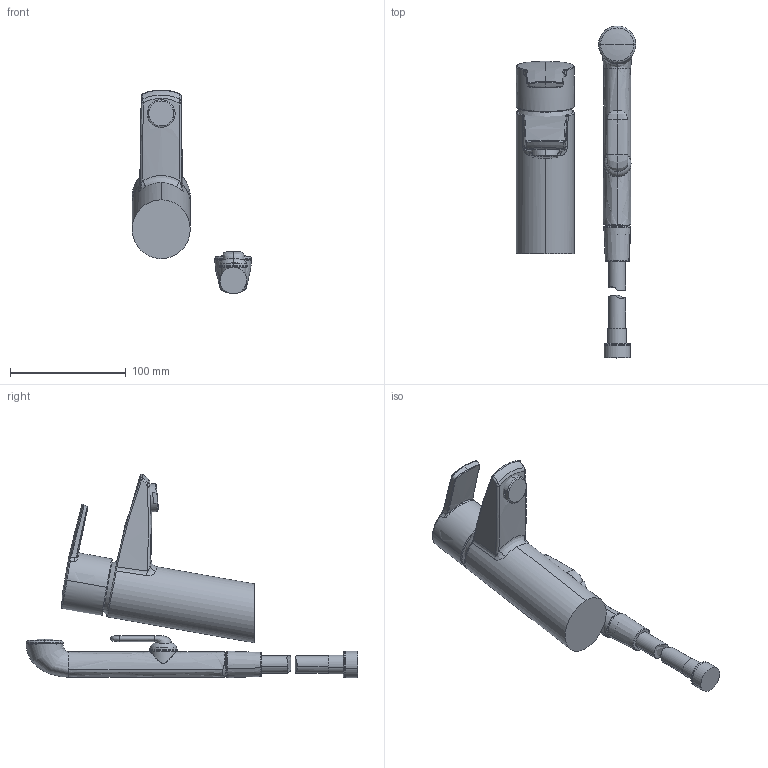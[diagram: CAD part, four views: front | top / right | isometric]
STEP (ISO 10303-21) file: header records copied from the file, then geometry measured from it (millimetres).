
FILE_DESCRIPTION (( 'STEP AP203' ), '1' );
FILE_NAME ('2808+2808F+2812+2812F.STEP', '2018-07-10T09:22:10', ( '' ), ( '' ), 'SwSTEP 2.0', 'SolidWorks 2016', '' );
FILE_SCHEMA (( 'CONFIG_CONTROL_DESIGN' ));
Length unit declared in the file: millimetre
Products named in the file (1): 2808+2808F+2812+2812F
Bounding box: 103.18 x 286.42 x 175.88 mm (x, y, z)
Volume: 523272.8 mm3; surface area: 76950 mm2
Topology: 9 solids, 9 shells, 158 faces, 355 edges, 217 vertices
Faces by surface type: bspline 77, cylinder 26, plane 24, torus 22, cone 8, sphere 1
Entity records: 13472 total; most frequent: CARTESIAN_POINT 10475, ORIENTED_EDGE 700, DIRECTION 452, EDGE_CURVE 350, VERTEX_POINT 215, AXIS2_PLACEMENT_3D 202, B_SPLINE_CURVE_WITH_KNOTS 164, EDGE_LOOP 163
